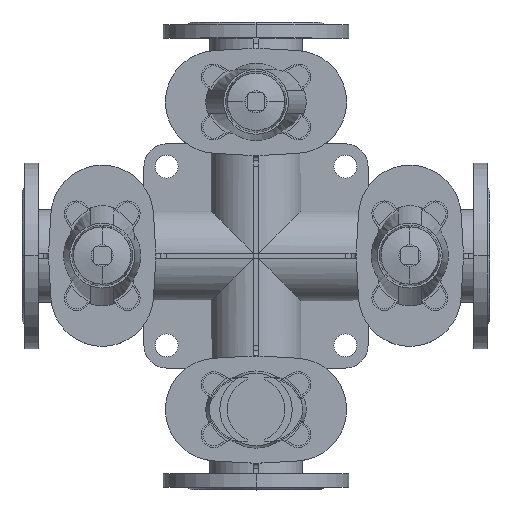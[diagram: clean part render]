
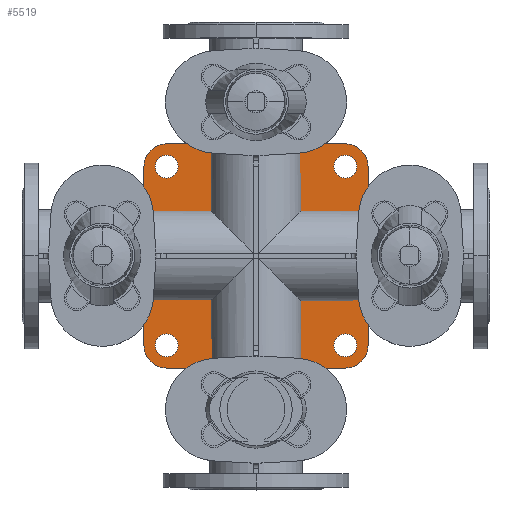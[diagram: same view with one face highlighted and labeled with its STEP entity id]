
A CAD part, top view. The second image highlights one B-rep face of the part: STEP entity #5519.
In plain terms, the highlighted planar face has unit normal (0, 0, 1).
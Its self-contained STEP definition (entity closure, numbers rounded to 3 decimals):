
#5519=ADVANCED_FACE('',(#10815,#10816,#10817,#10818,#10819),#10820,.F.);
#10815=FACE_BOUND('',#17809,.T.);
#10816=FACE_BOUND('',#17810,.T.);
#10817=FACE_BOUND('',#17811,.T.);
#10818=FACE_BOUND('',#17812,.T.);
#10819=FACE_OUTER_BOUND('',#17813,.T.);
#10820=PLANE('',#17814);
#17809=EDGE_LOOP('',(#28868,#28869));
#17810=EDGE_LOOP('',(#28870,#28871));
#17811=EDGE_LOOP('',(#28872,#28873));
#17812=EDGE_LOOP('',(#28874,#28875));
#17813=EDGE_LOOP('',(#28876,#28877,#28878,#28879,#28880,#28881,#28882,#28883));
#17814=AXIS2_PLACEMENT_3D('',#28884,#28885,#28886);
#28868=ORIENTED_EDGE('',*,*,#40156,.T.);
#28869=ORIENTED_EDGE('',*,*,#38493,.T.);
#28870=ORIENTED_EDGE('',*,*,#39103,.T.);
#28871=ORIENTED_EDGE('',*,*,#39395,.T.);
#28872=ORIENTED_EDGE('',*,*,#40157,.T.);
#28873=ORIENTED_EDGE('',*,*,#37086,.T.);
#28874=ORIENTED_EDGE('',*,*,#39070,.T.);
#28875=ORIENTED_EDGE('',*,*,#38710,.T.);
#28876=ORIENTED_EDGE('',*,*,#40158,.F.);
#28877=ORIENTED_EDGE('',*,*,#38024,.F.);
#28878=ORIENTED_EDGE('',*,*,#40159,.F.);
#28879=ORIENTED_EDGE('',*,*,#40160,.F.);
#28880=ORIENTED_EDGE('',*,*,#37728,.F.);
#28881=ORIENTED_EDGE('',*,*,#40109,.F.);
#28882=ORIENTED_EDGE('',*,*,#36305,.F.);
#28883=ORIENTED_EDGE('',*,*,#39416,.F.);
#28884=CARTESIAN_POINT('',(277.5,0.0,15.0));
#28885=DIRECTION('',(0.0,0.0,-1.0));
#28886=DIRECTION('',(-1.0,0.0,0.0));
#36305=EDGE_CURVE('',#42467,#42468,#42469,.T.);
#37086=EDGE_CURVE('',#43824,#43821,#43825,.T.);
#37728=EDGE_CURVE('',#44908,#44909,#44910,.T.);
#38024=EDGE_CURVE('',#45391,#45392,#45393,.T.);
#38493=EDGE_CURVE('',#46138,#46135,#46139,.T.);
#38710=EDGE_CURVE('',#46481,#46478,#46482,.T.);
#39070=EDGE_CURVE('',#46478,#46481,#47020,.T.);
#39103=EDGE_CURVE('',#47059,#47064,#47066,.T.);
#39395=EDGE_CURVE('',#47064,#47059,#47493,.T.);
#39416=EDGE_CURVE('',#47524,#42467,#47525,.T.);
#40109=EDGE_CURVE('',#42468,#44908,#48446,.T.);
#40156=EDGE_CURVE('',#46135,#46138,#48505,.T.);
#40157=EDGE_CURVE('',#43821,#43824,#48506,.T.);
#40158=EDGE_CURVE('',#45392,#47524,#48507,.T.);
#40159=EDGE_CURVE('',#48508,#45391,#48509,.T.);
#40160=EDGE_CURVE('',#44909,#48508,#48510,.T.);
#42467=VERTEX_POINT('',#51245);
#42468=VERTEX_POINT('',#51246);
#42469=LINE('',#51247,#51248);
#43821=VERTEX_POINT('',#53003);
#43824=VERTEX_POINT('',#53007);
#43825=CIRCLE('',#53008,13.5);
#44908=VERTEX_POINT('',#54426);
#44909=VERTEX_POINT('',#54427);
#44910=LINE('',#54428,#54429);
#45391=VERTEX_POINT('',#55037);
#45392=VERTEX_POINT('',#55038);
#45393=CIRCLE('',#55039,27.0);
#46135=VERTEX_POINT('',#55992);
#46138=VERTEX_POINT('',#55996);
#46139=CIRCLE('',#55997,13.5);
#46478=VERTEX_POINT('',#56436);
#46481=VERTEX_POINT('',#56440);
#46482=CIRCLE('',#56441,13.5);
#47020=CIRCLE('',#57147,13.5);
#47059=VERTEX_POINT('',#57200);
#47064=VERTEX_POINT('',#57206);
#47066=CIRCLE('',#57209,13.5);
#47493=CIRCLE('',#57758,13.5);
#47524=VERTEX_POINT('',#57795);
#47525=CIRCLE('',#57796,27.0);
#48446=CIRCLE('',#59018,27.0);
#48505=CIRCLE('',#59100,13.5);
#48506=CIRCLE('',#59101,13.5);
#48507=LINE('',#59102,#59103);
#48508=VERTEX_POINT('',#59104);
#48509=LINE('',#59105,#59106);
#48510=CIRCLE('',#59107,27.0);
#51245=CARTESIAN_POINT('',(144.5,-106.0,15.0));
#51246=CARTESIAN_POINT('',(144.5,106.0,15.0));
#51247=CARTESIAN_POINT('',(144.5,-106.0,15.0));
#51248=VECTOR('',#62160,1.0);
#53003=CARTESIAN_POINT('',(185.0,106.0,15.0));
#53007=CARTESIAN_POINT('',(158.0,106.0,15.0));
#53008=AXIS2_PLACEMENT_3D('',#63204,#63205,#63206);
#54426=CARTESIAN_POINT('',(171.5,133.0,15.0));
#54427=CARTESIAN_POINT('',(383.5,133.0,15.0));
#54428=CARTESIAN_POINT('',(171.5,133.0,15.0));
#54429=VECTOR('',#64058,1.0);
#55037=CARTESIAN_POINT('',(410.5,-106.0,15.0));
#55038=CARTESIAN_POINT('',(383.5,-133.0,15.0));
#55039=AXIS2_PLACEMENT_3D('',#64501,#64502,#64503);
#55992=CARTESIAN_POINT('',(397.0,-106.0,15.0));
#55996=CARTESIAN_POINT('',(370.0,-106.0,15.0));
#55997=AXIS2_PLACEMENT_3D('',#65148,#65149,#65150);
#56436=CARTESIAN_POINT('',(397.0,106.0,15.0));
#56440=CARTESIAN_POINT('',(370.0,106.0,15.0));
#56441=AXIS2_PLACEMENT_3D('',#65444,#65445,#65446);
#57147=AXIS2_PLACEMENT_3D('',#65912,#65913,#65914);
#57200=CARTESIAN_POINT('',(185.0,-106.0,15.0));
#57206=CARTESIAN_POINT('',(158.0,-106.0,15.0));
#57209=AXIS2_PLACEMENT_3D('',#65949,#65950,#65951);
#57758=AXIS2_PLACEMENT_3D('',#66359,#66360,#66361);
#57795=CARTESIAN_POINT('',(171.5,-133.0,15.0));
#57796=AXIS2_PLACEMENT_3D('',#66395,#66396,#66397);
#59018=AXIS2_PLACEMENT_3D('',#67215,#67216,#67217);
#59100=AXIS2_PLACEMENT_3D('',#67265,#67266,#67267);
#59101=AXIS2_PLACEMENT_3D('',#67268,#67269,#67270);
#59102=CARTESIAN_POINT('',(383.5,-133.0,15.0));
#59103=VECTOR('',#67271,1.0);
#59104=CARTESIAN_POINT('',(410.5,106.0,15.0));
#59105=CARTESIAN_POINT('',(410.5,106.0,15.0));
#59106=VECTOR('',#67272,1.0);
#59107=AXIS2_PLACEMENT_3D('',#67273,#67274,#67275);
#62160=DIRECTION('',(0.0,1.0,0.0));
#63204=CARTESIAN_POINT('',(171.5,106.0,15.0));
#63205=DIRECTION('',(0.0,0.0,-1.0));
#63206=DIRECTION('',(1.0,0.0,0.0));
#64058=DIRECTION('',(1.0,0.0,0.0));
#64501=CARTESIAN_POINT('',(383.5,-106.0,15.0));
#64502=DIRECTION('',(0.0,0.0,-1.0));
#64503=DIRECTION('',(-1.0,0.0,0.0));
#65148=CARTESIAN_POINT('',(383.5,-106.0,15.0));
#65149=DIRECTION('',(0.0,0.0,-1.0));
#65150=DIRECTION('',(1.0,0.0,0.0));
#65444=CARTESIAN_POINT('',(383.5,106.0,15.0));
#65445=DIRECTION('',(0.0,0.0,-1.0));
#65446=DIRECTION('',(1.0,0.0,0.0));
#65912=CARTESIAN_POINT('',(383.5,106.0,15.0));
#65913=DIRECTION('',(0.0,0.0,-1.0));
#65914=DIRECTION('',(1.0,0.0,0.0));
#65949=CARTESIAN_POINT('',(171.5,-106.0,15.0));
#65950=DIRECTION('',(0.0,0.0,-1.0));
#65951=DIRECTION('',(1.0,0.0,0.0));
#66359=CARTESIAN_POINT('',(171.5,-106.0,15.0));
#66360=DIRECTION('',(0.0,0.0,-1.0));
#66361=DIRECTION('',(1.0,0.0,0.0));
#66395=CARTESIAN_POINT('',(171.5,-106.0,15.0));
#66396=DIRECTION('',(0.0,0.0,-1.0));
#66397=DIRECTION('',(-1.0,0.0,0.0));
#67215=CARTESIAN_POINT('',(171.5,106.0,15.0));
#67216=DIRECTION('',(0.0,0.0,-1.0));
#67217=DIRECTION('',(-1.0,0.0,0.0));
#67265=CARTESIAN_POINT('',(383.5,-106.0,15.0));
#67266=DIRECTION('',(0.0,0.0,-1.0));
#67267=DIRECTION('',(1.0,0.0,0.0));
#67268=CARTESIAN_POINT('',(171.5,106.0,15.0));
#67269=DIRECTION('',(0.0,0.0,-1.0));
#67270=DIRECTION('',(1.0,0.0,0.0));
#67271=DIRECTION('',(-1.0,0.0,0.0));
#67272=DIRECTION('',(0.0,-1.0,0.0));
#67273=CARTESIAN_POINT('',(383.5,106.0,15.0));
#67274=DIRECTION('',(0.0,0.0,-1.0));
#67275=DIRECTION('',(-1.0,0.0,0.0));
